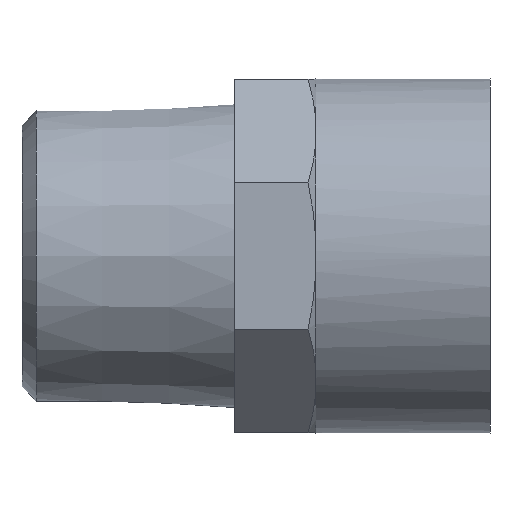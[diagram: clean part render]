
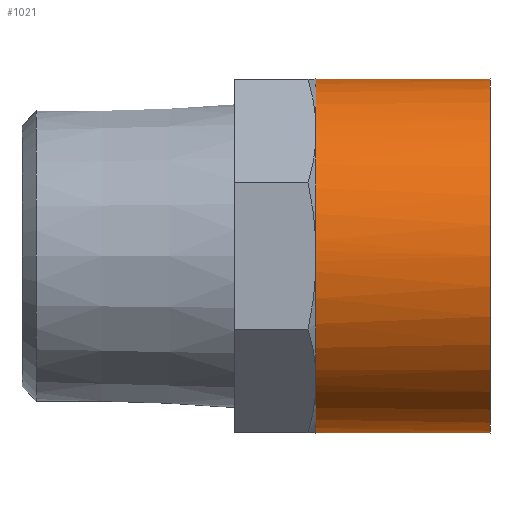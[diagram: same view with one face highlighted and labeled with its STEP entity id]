
A CAD part, front view. The second image highlights one B-rep face of the part: STEP entity #1021.
In plain terms, the highlighted cylindrical face has radius 12.5 mm (diameter 25 mm), a full revolution.
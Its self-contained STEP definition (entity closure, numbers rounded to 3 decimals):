
#75=CARTESIAN_POINT('',(20.727,9.593,8.014));
#76=VERTEX_POINT('',#75);
#114=CARTESIAN_POINT('',(20.727,8.014,9.593));
#115=VERTEX_POINT('',#114);
#143=CARTESIAN_POINT('',(20.727,0.0,0.0));
#144=DIRECTION('',(1.0,0.0,0.0));
#145=DIRECTION('',(0.0,1.0,0.0));
#146=AXIS2_PLACEMENT_3D('',#143,#144,#145);
#147=CIRCLE('',#146,12.5);
#148=EDGE_CURVE('',#76,#115,#147,.T.);
#159=CARTESIAN_POINT('',(20.727,-8.014,9.593));
#160=VERTEX_POINT('',#159);
#161=CARTESIAN_POINT('',(20.727,-9.593,8.014));
#162=VERTEX_POINT('',#161);
#163=CARTESIAN_POINT('',(20.727,0.0,0.0));
#164=DIRECTION('',(1.0,0.0,0.0));
#165=DIRECTION('',(0.0,1.0,0.0));
#166=AXIS2_PLACEMENT_3D('',#163,#164,#165);
#167=CIRCLE('',#166,12.5);
#168=EDGE_CURVE('',#160,#162,#167,.T.);
#184=CARTESIAN_POINT('',(20.727,-12.45,1.117));
#185=VERTEX_POINT('',#184);
#186=CARTESIAN_POINT('',(20.727,-12.45,-1.117));
#187=VERTEX_POINT('',#186);
#188=CARTESIAN_POINT('',(20.727,0.0,0.0));
#189=DIRECTION('',(1.0,0.0,0.0));
#190=DIRECTION('',(0.0,1.0,0.0));
#191=AXIS2_PLACEMENT_3D('',#188,#189,#190);
#192=CIRCLE('',#191,12.5);
#193=EDGE_CURVE('',#185,#187,#192,.T.);
#209=CARTESIAN_POINT('',(20.727,-9.593,-8.014));
#210=VERTEX_POINT('',#209);
#211=CARTESIAN_POINT('',(20.727,-8.014,-9.593));
#212=VERTEX_POINT('',#211);
#213=CARTESIAN_POINT('',(20.727,0.0,0.0));
#214=DIRECTION('',(1.0,0.0,0.0));
#215=DIRECTION('',(0.0,1.0,0.0));
#216=AXIS2_PLACEMENT_3D('',#213,#214,#215);
#217=CIRCLE('',#216,12.5);
#218=EDGE_CURVE('',#210,#212,#217,.T.);
#234=CARTESIAN_POINT('',(20.727,-1.117,-12.45));
#235=VERTEX_POINT('',#234);
#236=CARTESIAN_POINT('',(20.727,1.117,-12.45));
#237=VERTEX_POINT('',#236);
#238=CARTESIAN_POINT('',(20.727,0.0,0.0));
#239=DIRECTION('',(1.0,0.0,0.0));
#240=DIRECTION('',(0.0,1.0,0.0));
#241=AXIS2_PLACEMENT_3D('',#238,#239,#240);
#242=CIRCLE('',#241,12.5);
#243=EDGE_CURVE('',#235,#237,#242,.T.);
#259=CARTESIAN_POINT('',(20.727,8.014,-9.593));
#260=VERTEX_POINT('',#259);
#261=CARTESIAN_POINT('',(20.727,9.593,-8.014));
#262=VERTEX_POINT('',#261);
#263=CARTESIAN_POINT('',(20.727,0.0,0.0));
#264=DIRECTION('',(1.0,0.0,0.0));
#265=DIRECTION('',(0.0,1.0,0.0));
#266=AXIS2_PLACEMENT_3D('',#263,#264,#265);
#267=CIRCLE('',#266,12.5);
#268=EDGE_CURVE('',#260,#262,#267,.T.);
#284=CARTESIAN_POINT('',(20.727,12.45,-1.117));
#285=VERTEX_POINT('',#284);
#286=CARTESIAN_POINT('',(20.727,12.45,1.117));
#287=VERTEX_POINT('',#286);
#288=CARTESIAN_POINT('',(20.727,0.0,0.0));
#289=DIRECTION('',(1.0,0.0,0.0));
#290=DIRECTION('',(0.0,1.0,0.0));
#291=AXIS2_PLACEMENT_3D('',#288,#289,#290);
#292=CIRCLE('',#291,12.5);
#293=EDGE_CURVE('',#285,#287,#292,.T.);
#656=CARTESIAN_POINT('',(20.727,-1.117,12.45));
#657=VERTEX_POINT('',#656);
#671=CARTESIAN_POINT('',(20.727,1.117,12.45));
#672=VERTEX_POINT('',#671);
#702=CARTESIAN_POINT('',(20.727,0.0,0.0));
#703=DIRECTION('',(1.0,0.0,0.0));
#704=DIRECTION('',(0.0,1.0,0.0));
#705=AXIS2_PLACEMENT_3D('',#702,#703,#704);
#706=CIRCLE('',#705,12.5);
#707=EDGE_CURVE('',#162,#185,#706,.T.);
#719=CARTESIAN_POINT('',(20.727,0.0,0.0));
#720=DIRECTION('',(1.0,0.0,0.0));
#721=DIRECTION('',(0.0,1.0,0.0));
#722=AXIS2_PLACEMENT_3D('',#719,#720,#721);
#723=CIRCLE('',#722,12.5);
#724=EDGE_CURVE('',#287,#76,#723,.T.);
#735=CARTESIAN_POINT('',(20.727,0.0,0.0));
#736=DIRECTION('',(1.0,0.0,0.0));
#737=DIRECTION('',(0.0,1.0,0.0));
#738=AXIS2_PLACEMENT_3D('',#735,#736,#737);
#739=CIRCLE('',#738,12.5);
#740=EDGE_CURVE('',#657,#160,#739,.T.);
#752=CARTESIAN_POINT('',(20.727,0.0,0.0));
#753=DIRECTION('',(1.0,0.0,0.0));
#754=DIRECTION('',(0.0,1.0,0.0));
#755=AXIS2_PLACEMENT_3D('',#752,#753,#754);
#756=CIRCLE('',#755,12.5);
#757=EDGE_CURVE('',#187,#210,#756,.T.);
#769=CARTESIAN_POINT('',(20.727,0.0,0.0));
#770=DIRECTION('',(1.0,0.0,0.0));
#771=DIRECTION('',(0.0,1.0,0.0));
#772=AXIS2_PLACEMENT_3D('',#769,#770,#771);
#773=CIRCLE('',#772,12.5);
#774=EDGE_CURVE('',#212,#235,#773,.T.);
#787=CARTESIAN_POINT('',(20.727,0.0,0.0));
#788=DIRECTION('',(1.0,0.0,0.0));
#789=DIRECTION('',(0.0,1.0,0.0));
#790=AXIS2_PLACEMENT_3D('',#787,#788,#789);
#791=CIRCLE('',#790,12.5);
#792=EDGE_CURVE('',#115,#672,#791,.T.);
#803=CARTESIAN_POINT('',(20.727,0.0,0.0));
#804=DIRECTION('',(1.0,0.0,0.0));
#805=DIRECTION('',(0.0,1.0,0.0));
#806=AXIS2_PLACEMENT_3D('',#803,#804,#805);
#807=CIRCLE('',#806,12.5);
#808=EDGE_CURVE('',#237,#260,#807,.T.);
#819=CARTESIAN_POINT('',(20.727,0.0,0.0));
#820=DIRECTION('',(1.0,0.0,0.0));
#821=DIRECTION('',(0.0,1.0,0.0));
#822=AXIS2_PLACEMENT_3D('',#819,#820,#821);
#823=CIRCLE('',#822,12.5);
#824=EDGE_CURVE('',#672,#657,#823,.T.);
#976=CARTESIAN_POINT('',(20.727,0.0,0.0));
#977=DIRECTION('',(1.0,0.0,0.0));
#978=DIRECTION('',(0.0,1.0,0.0));
#979=AXIS2_PLACEMENT_3D('',#976,#977,#978);
#980=CIRCLE('',#979,12.5);
#981=EDGE_CURVE('',#262,#285,#980,.T.);
#987=CARTESIAN_POINT('',(26.864,0.0,0.0));
#988=DIRECTION('',(1.0,0.0,0.0));
#989=DIRECTION('',(0.0,1.0,0.0));
#990=AXIS2_PLACEMENT_3D('',#987,#988,#989);
#991=CYLINDRICAL_SURFACE('',#990,12.5);
#992=CARTESIAN_POINT('',(33.0,12.5,0.0));
#993=VERTEX_POINT('',#992);
#994=CARTESIAN_POINT('',(33.0,0.0,0.0));
#995=DIRECTION('',(1.0,0.0,0.0));
#996=DIRECTION('',(0.0,1.0,0.0));
#997=AXIS2_PLACEMENT_3D('',#994,#995,#996);
#998=CIRCLE('',#997,12.5);
#999=EDGE_CURVE('',#993,#993,#998,.T.);
#1000=ORIENTED_EDGE('',*,*,#999,.F.);
#1001=EDGE_LOOP('',(#1000));
#1002=FACE_OUTER_BOUND('',#1001,.T.);
#1003=ORIENTED_EDGE('',*,*,#740,.T.);
#1004=ORIENTED_EDGE('',*,*,#168,.T.);
#1005=ORIENTED_EDGE('',*,*,#707,.T.);
#1006=ORIENTED_EDGE('',*,*,#193,.T.);
#1007=ORIENTED_EDGE('',*,*,#757,.T.);
#1008=ORIENTED_EDGE('',*,*,#218,.T.);
#1009=ORIENTED_EDGE('',*,*,#774,.T.);
#1010=ORIENTED_EDGE('',*,*,#243,.T.);
#1011=ORIENTED_EDGE('',*,*,#808,.T.);
#1012=ORIENTED_EDGE('',*,*,#268,.T.);
#1013=ORIENTED_EDGE('',*,*,#981,.T.);
#1014=ORIENTED_EDGE('',*,*,#293,.T.);
#1015=ORIENTED_EDGE('',*,*,#724,.T.);
#1016=ORIENTED_EDGE('',*,*,#148,.T.);
#1017=ORIENTED_EDGE('',*,*,#792,.T.);
#1018=ORIENTED_EDGE('',*,*,#824,.T.);
#1019=EDGE_LOOP('',(#1003,#1004,#1005,#1006,#1007,#1008,#1009,#1010,#1011,#1012,#1013,#1014,#1015,#1016,#1017,#1018));
#1020=FACE_BOUND('',#1019,.T.);
#1021=ADVANCED_FACE('',(#1002,#1020),#991,.T.);
